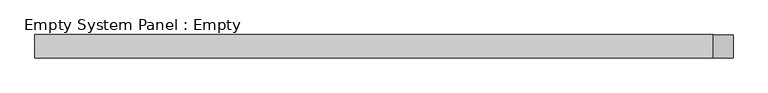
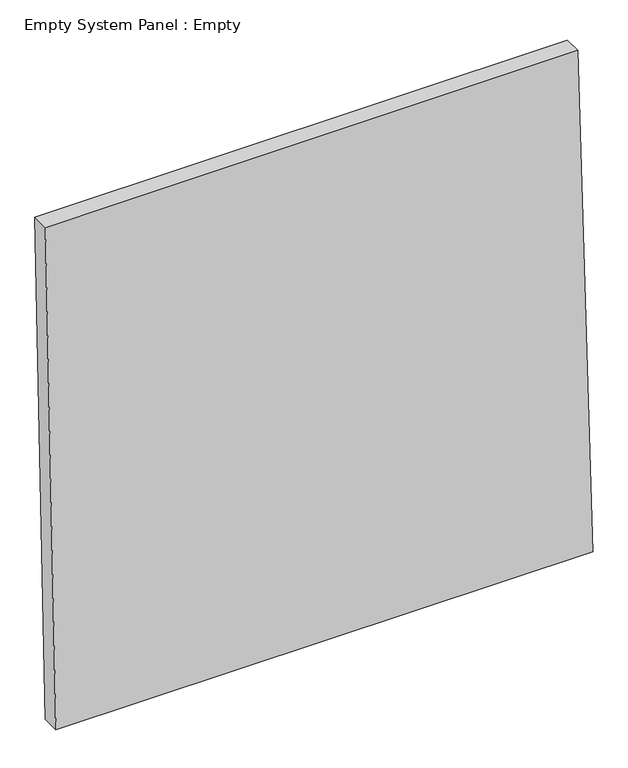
"""IFC4 building model written with IfcOpenShell, lengths in millimetres: plate geometry, Empty System Panel : Empty."""

from ifc_helpers import new_model, si_unit, frame, origin, place, context, project, spatial, polyline, outline, extrude, source, transform, mapped, element, save


def empty_system_panel_empty_3aa81954(model_context):
    return source(origin(), model_context, "Body", "SweptSolid", [
        extrude(outline(polyline([(0.0, -1470.6016357), (0.0, 1529.0157483), (2990.4660668, 1443.0921786), (2984.6691644, -1529.0157483), (0.0, -1470.6016357)])), frame((0.0, -50.8, 0.0), z_axis=(0.0, 1.0, 0.0), x_axis=(0.0, 0.0, 1.0)), (0.0, 0.0, 1.0), 101.6),
    ])


if __name__ == "__main__":
    model = new_model("IFC4")
    model_context = context("Model", 3, world=origin())
    ifc_project = project(units=[si_unit("LENGTHUNIT", "METRE", prefix="MILLI")], contexts=[model_context])
    site = spatial("IfcSite", under=ifc_project)
    building = spatial("IfcBuilding", under=site)
    placement = place(None, origin())
    empty_system_panel_empty_shape = empty_system_panel_empty_3aa81954(model_context)
    element("IfcPlate", 1, ObjectType="Empty System Panel : Empty", at=placement, inside=building, context=model_context, shape_type="MappedRepresentation", body=[
        mapped(empty_system_panel_empty_shape, transform((0.0, 0.0, 0.0), x_axis=(1.0, 0.0, 0.0), y_axis=(0.0, 1.0, 0.0), z_axis=(0.0, 0.0, 1.0))),
    ])
    save(model, "model.ifc")
